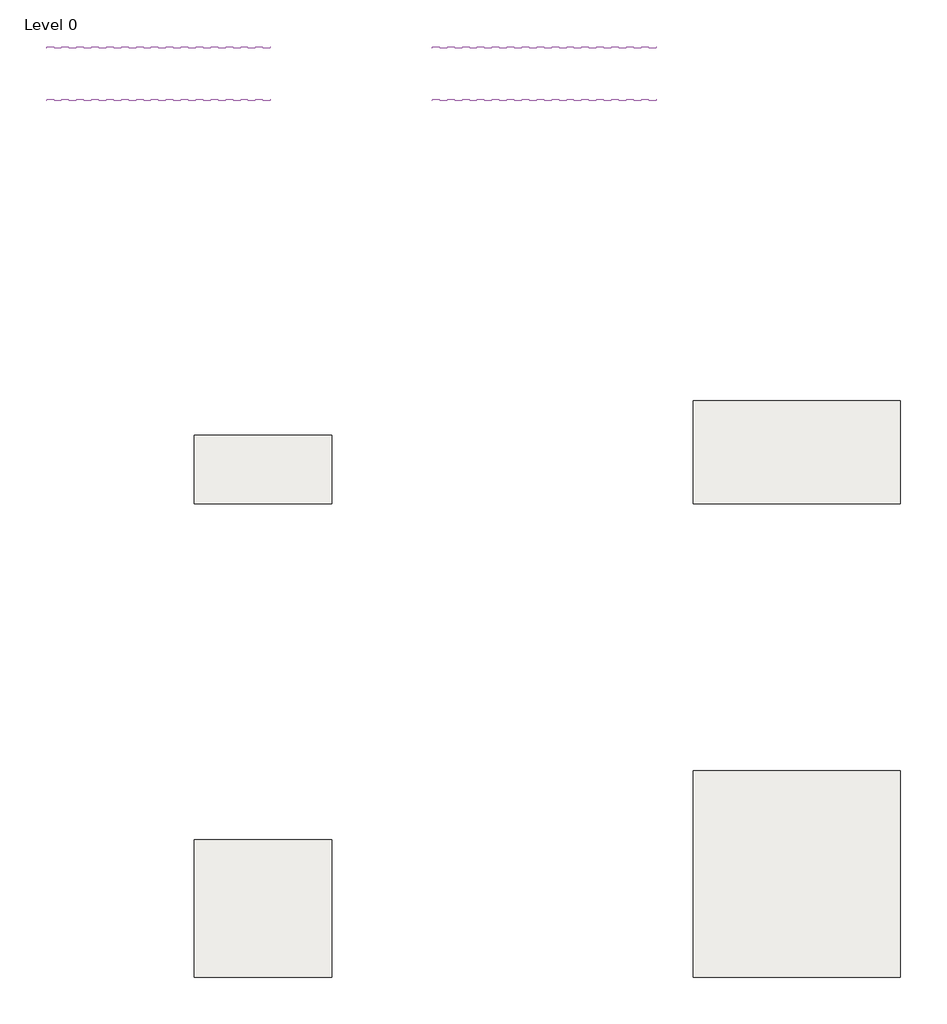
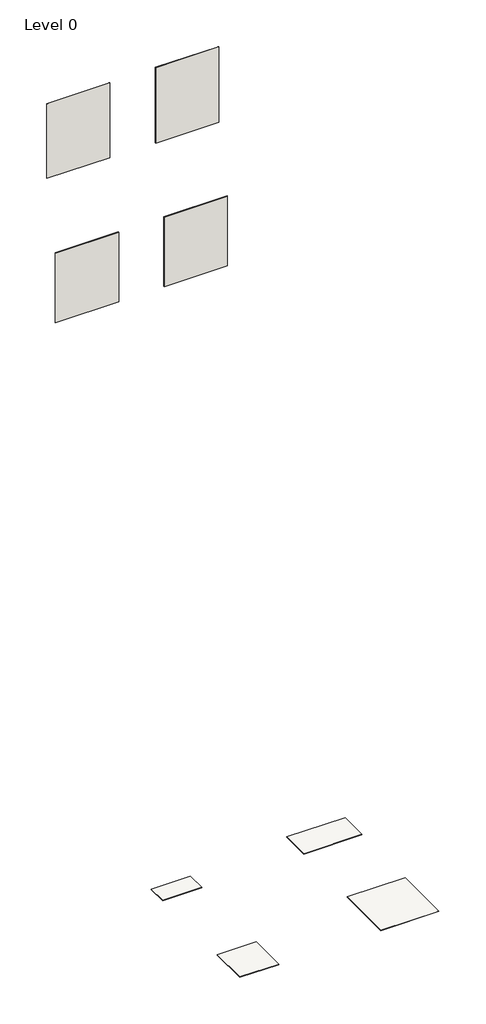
# One storey: 4 slabs, 4 walls.
"""IFC4 building model written with IfcOpenShell, lengths in millimetres."""

from ifc_helpers import new_model, si_unit, frame, origin, place, context, project, spatial, polyline, outline, extrude, element, save

model = new_model("IFC4")

# Units and contexts
model_context = context("Model", 3, world=origin())
ifc_project = project(units=[si_unit("LENGTHUNIT", "METRE", prefix="MILLI")], contexts=[model_context])

# Site, building, storey
site = spatial("IfcSite", under=ifc_project)
building = spatial("IfcBuilding", under=site)
storey = spatial("IfcBuildingStorey", under=building, Name="Level 0", Elevation=0.0)

# Slabs
placement = place(None, origin())
element("IfcSlab", 1, ObjectType="Floor_Tiles_Refin-Affrescati-Ombra-40x80 OI69", at=placement, inside=storey, context=model_context, shape_type="SweptSolid", body=[
    extrude(outline(polyline([(7574.3752062, 5888.4192064), (7574.3752062, 5488.4192064), (6774.3752062, 5488.4192064), (6774.3752062, 5888.4192064), (7574.3752062, 5888.4192064)])), frame((0.0, 0.0, -10.0), z_axis=(0.0, 0.0, 1.0), x_axis=(1.0, 0.0, 0.0)), (0.0, 0.0, 1.0), 10.0),
])
element("IfcSlab", 2, ObjectType="Floor_Tiles_Refin-Affrescati-Ombra-60x120 OH04", at=placement, inside=storey, context=model_context, shape_type="SweptSolid", body=[
    extrude(outline(polyline([(10874.3752062, 6088.4192064), (10874.3752062, 5488.4192064), (9674.3752062, 5488.4192064), (9674.3752062, 6088.4192064), (10874.3752062, 6088.4192064)])), frame((0.0, 0.0, -10.0), z_axis=(0.0, 0.0, 1.0), x_axis=(1.0, 0.0, 0.0)), (0.0, 0.0, 1.0), 10.0),
])
element("IfcSlab", 3, ObjectType="Floor_Tiles_Refin-Affrescati-Ombra-80x80 OI01", at=placement, inside=storey, context=model_context, shape_type="SweptSolid", body=[
    extrude(outline(polyline([(7574.3752062, 3538.4192064), (7574.3752062, 2738.4192064), (6774.3752062, 2738.4192064), (6774.3752062, 3538.4192064), (7574.3752062, 3538.4192064)])), frame((0.0, 0.0, -10.0), z_axis=(0.0, 0.0, 1.0), x_axis=(1.0, 0.0, 0.0)), (0.0, 0.0, 1.0), 10.0),
])
element("IfcSlab", 4, ObjectType="Floor_Tiles_Refin-Affrescati-Ombra-120x120 OG68", at=placement, inside=storey, context=model_context, shape_type="SweptSolid", body=[
    extrude(outline(polyline([(10874.3752062, 3938.4192064), (10874.3752062, 2738.4192064), (9674.3752062, 2738.4192064), (9674.3752062, 3938.4192064), (10874.3752062, 3938.4192064)])), frame((0.0, 0.0, -10.0), z_axis=(0.0, 0.0, 1.0), x_axis=(1.0, 0.0, 0.0)), (0.0, 0.0, 1.0), 10.0),
])

# Walls
element("IfcWall", 5, ObjectType="Wall_Tiles_Refin-Affrescati-Ombra-60x120 OH04", at=placement, inside=storey, context=model_context, shape_type="SweptSolid", body=[
    extrude(outline(polyline([(9457.3752062, 8132.3838631), (8157.3752062, 8132.3838631), (8157.3752062, 8142.3838631), (9457.3752062, 8142.3838631), (9457.3752062, 8132.3838631)])), frame((0.0, 0.0, 14387.6770443), z_axis=(0.0, 0.0, 1.0), x_axis=(1.0, 0.0, 0.0)), (0.0, 0.0, 1.0), 1641.7417352),
])
element("IfcWall", 6, ObjectType="Wall_Tiles_Refin-Affrescati-Ombra-40x80 OI69", at=placement, inside=storey, context=model_context, shape_type="SweptSolid", body=[
    extrude(outline(polyline([(7217.3752062, 8132.3838631), (5917.3752062, 8132.3838631), (5917.3752062, 8142.3838631), (7217.3752062, 8142.3838631), (7217.3752062, 8132.3838631)])), frame((0.0, 0.0, 14403.7267346), z_axis=(0.0, 0.0, 1.0), x_axis=(1.0, 0.0, 0.0)), (0.0, 0.0, 1.0), 1625.692045),
])
element("IfcWall", 7, ObjectType="Wall_Tiles_Refin-Affrescati-Ombra-80x80 OI01", at=placement, inside=storey, context=model_context, shape_type="SweptSolid", body=[
    extrude(outline(polyline([(7217.3752062, 7827.3838631), (5917.3752062, 7827.3838631), (5917.3752062, 7837.3838631), (7217.3752062, 7837.3838631), (7217.3752062, 7827.3838631)])), frame((0.0, 0.0, 11452.5436262), z_axis=(0.0, 0.0, 1.0), x_axis=(1.0, 0.0, 0.0)), (0.0, 0.0, 1.0), 1513.1985566),
])
element("IfcWall", 8, ObjectType="Wall_Tiles_Refin-Affrescati-Ombra-120x120 OG68", at=placement, inside=storey, context=model_context, shape_type="SweptSolid", body=[
    extrude(outline(polyline([(9457.3752062, 7827.3838631), (8157.3752062, 7827.3838631), (8157.3752062, 7837.3838631), (9457.3752062, 7837.3838631), (9457.3752062, 7827.3838631)])), frame((0.0, 0.0, 11452.5436262), z_axis=(0.0, 0.0, 1.0), x_axis=(1.0, 0.0, 0.0)), (0.0, 0.0, 1.0), 1513.1985566),
])

save(model, "model.ifc")
